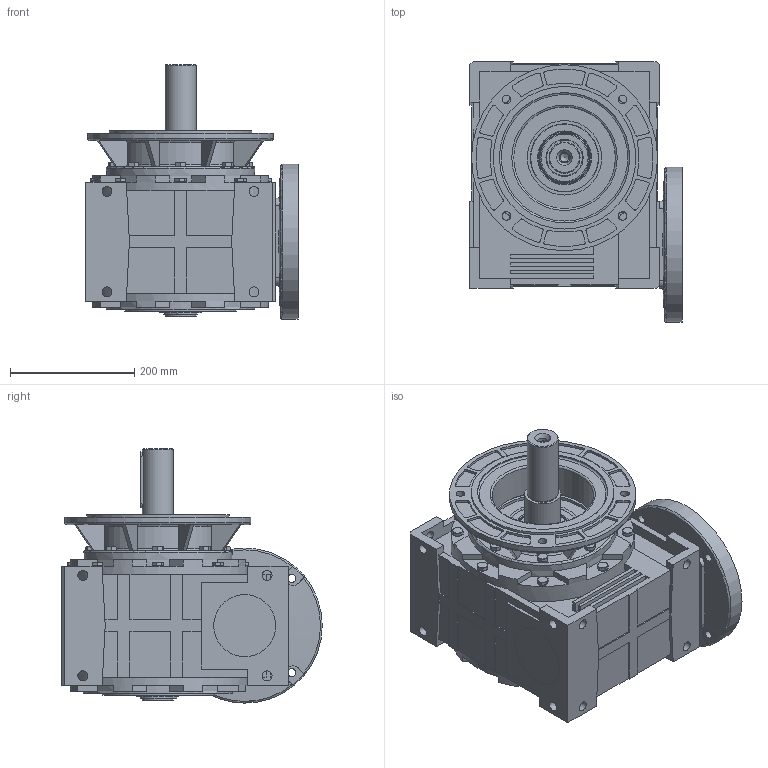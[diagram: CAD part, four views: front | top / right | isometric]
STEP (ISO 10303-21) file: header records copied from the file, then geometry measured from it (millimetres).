
FILE_DESCRIPTION (( 'STEP AP203' ), '1' );
FILE_NAME ('MR-140_100-112B5_K300_2_WJ_2_3D.STEP', '2018-11-13T12:04:51', ( 'Biuro' ), ( 'Microsoft' ), 'SwSTEP 2.0', 'SolidWorks 2013', '' );
FILE_SCHEMA (( 'CONFIG_CONTROL_DESIGN' ));
Length unit declared in the file: millimetre
Products named in the file (1): MR-140_100-112B5_K300_2_WJ_2_3D
Bounding box: 342 x 420 x 410 mm (x, y, z)
Volume: 22750553.6 mm3; surface area: 1114939.1 mm2
Topology: 1 solids, 30 shells, 1324 faces, 3288 edges, 2104 vertices
Faces by surface type: plane 782, cylinder 328, cone 143, torus 70, bspline 1
Full cylindrical faces by diameter (mm): 2.5 x2, 10 x24, 10.5 x8, 11 x8, 13 x4, 14 x5, 16 x32, 17 x1, 18 x4, 24 x4, 28 x1, 36 x1, 47 x1, 49.4 x1, 49.5 x1, 49.6 x1, 50 x5, 50.2 x1, 58 x1, 60 x1, 64.95 x1, 65 x2, 68 x1, 70.861 x1, 86 x1, 90 x2, 100 x1, 110 x2, 120 x2, 164 x1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
Entity records: 39448 total; most frequent: CARTESIAN_POINT 9036, DIRECTION 6372, ORIENTED_EDGE 5928, EDGE_CURVE 2964, AXIS2_PLACEMENT_3D 2382, VERTEX_POINT 1998, EDGE_LOOP 1708, VECTOR 1608
